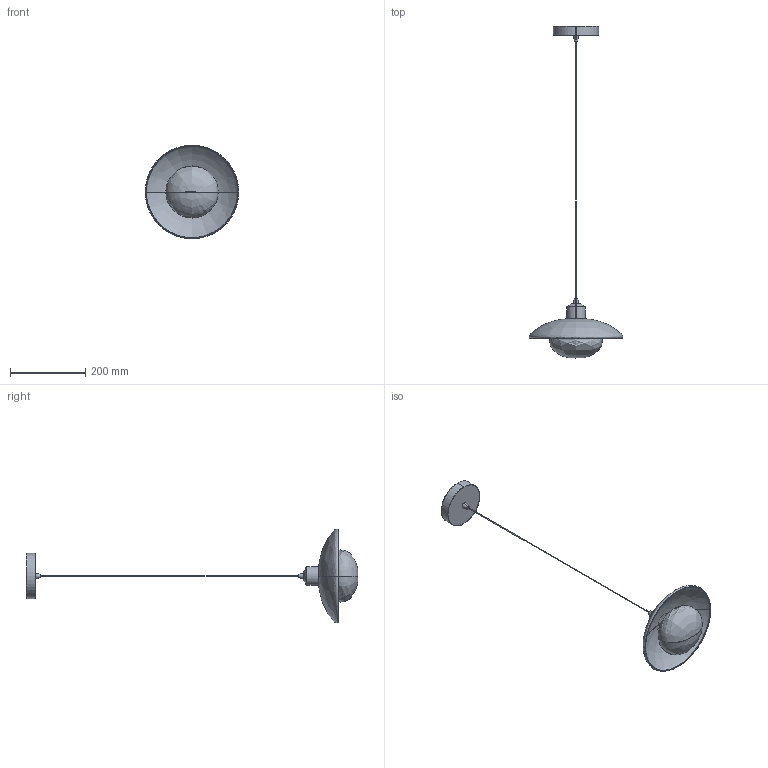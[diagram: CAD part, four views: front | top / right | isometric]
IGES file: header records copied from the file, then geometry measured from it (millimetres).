
Start section: SolidWorks IGES file using analytic representation for surfaces
Global section: file name: F:\燠隴矨\3D\2025-7\Aria Disc Pendant Lamp.IGS,15; native system: HSolidWorks 2022; preprocessor: SolidWorks 2022; author: MyPC; date: 250702.111735; units: millimetre
Bounding box: 249.25 x 883.84 x 249.06 mm (x, y, z)
Surface area: 278106.5 mm2 (no closed solid volume)
Topology: 0 solids, 0 shells, 242 faces, 2561 edges, 2555 vertices
Faces by surface type: bspline 186, revolution 56
